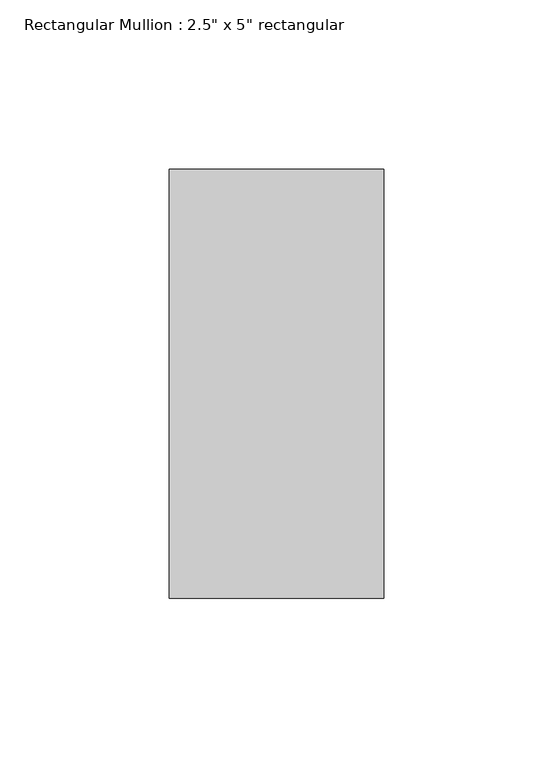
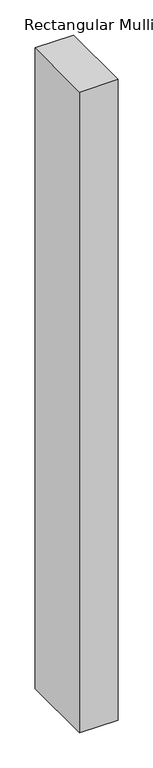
"""IFC4 building model written with IfcOpenShell, lengths in millimetres: member geometry."""

from ifc_helpers import new_model, si_unit, frame, origin, place, context, project, spatial, polyline, outline, extrude, source, transform, mapped, element, save


def member_79bda1a2(model_context):
    return source(origin(), model_context, "Body", "SweptSolid", [
        extrude(outline(polyline([(0.0, 63.5), (0.0, -63.5), (-63.5, -63.5), (-63.5, 63.5), (0.0, 63.5)])), frame((0.0, 0.0, -1114.4249998), z_axis=(0.0, 0.0, 1.0), x_axis=(1.0, 0.0, 0.0)), (0.0, 0.0, 1.0), 1114.4249998),
    ])


if __name__ == "__main__":
    model = new_model("IFC4")
    model_context = context("Model", 3, world=origin())
    ifc_project = project(units=[si_unit("LENGTHUNIT", "METRE", prefix="MILLI")], contexts=[model_context])
    site = spatial("IfcSite", under=ifc_project)
    building = spatial("IfcBuilding", under=site)
    placement = place(None, origin())
    member_shape = member_79bda1a2(model_context)
    element("IfcMember", 1, ObjectType="Rectangular Mullion : 2.5\" x 5\" rectangular", at=placement, inside=building, context=model_context, shape_type="MappedRepresentation", body=[
        mapped(member_shape, transform((0.0, 0.0, 0.0), x_axis=(1.0, 0.0, 0.0), y_axis=(0.0, 1.0, 0.0), z_axis=(0.0, 0.0, 1.0))),
    ])
    save(model, "model.ifc")
